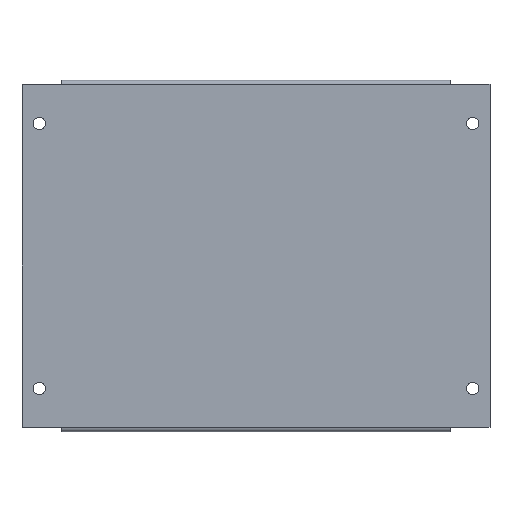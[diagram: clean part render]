
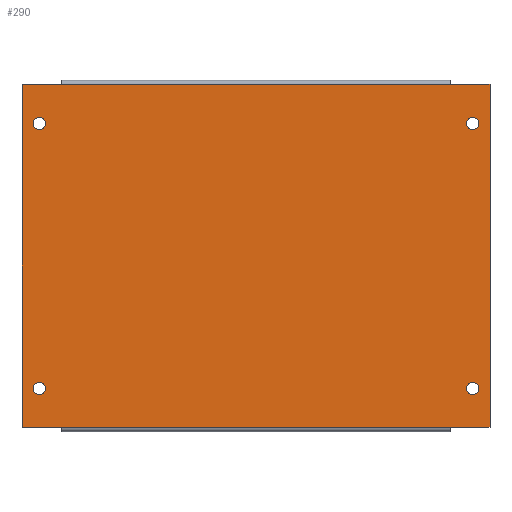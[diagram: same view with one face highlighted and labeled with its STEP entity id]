
A CAD part, top view. The second image highlights one B-rep face of the part: STEP entity #290.
In plain terms, the highlighted planar face has unit normal (0, 0, 1).
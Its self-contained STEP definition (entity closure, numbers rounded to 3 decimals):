
#1 = AXIS2_PLACEMENT_3D ( 'NONE', #961, #411, #650 ) ;
#17 = AXIS2_PLACEMENT_3D ( 'NONE', #419, #986, #747 ) ;
#24 = DIRECTION ( 'NONE',  ( 0., 1., 0. ) ) ;
#28 = FACE_BOUND ( 'NONE', #887, .T. ) ;
#40 = CIRCLE ( 'NONE', #810, 3.5 ) ;
#50 = AXIS2_PLACEMENT_3D ( 'NONE', #799, #86, #400 ) ;
#51 = VECTOR ( 'NONE', #24, 1000. ) ;
#78 = DIRECTION ( 'NONE',  ( -1., 0., 0. ) ) ;
#81 = EDGE_CURVE ( 'NONE', #584, #849, #515, .T. ) ;
#82 = VERTEX_POINT ( 'NONE', #695 ) ;
#84 = VERTEX_POINT ( 'NONE', #925 ) ;
#86 = DIRECTION ( 'NONE',  ( 0., 0., 1. ) ) ;
#104 = VECTOR ( 'NONE', #78, 1000. ) ;
#110 = ORIENTED_EDGE ( 'NONE', *, *, #977, .F. ) ;
#111 = CARTESIAN_POINT ( 'NONE',  ( -132.5, 97.1, 1.2 ) ) ;
#124 = ORIENTED_EDGE ( 'NONE', *, *, #403, .T. ) ;
#131 = CARTESIAN_POINT ( 'NONE',  ( -132.5, -97.1, 1.2 ) ) ;
#139 = CIRCLE ( 'NONE', #277, 3.5 ) ;
#142 = VERTEX_POINT ( 'NONE', #702 ) ;
#148 = LINE ( 'NONE', #488, #753 ) ;
#157 = EDGE_CURVE ( 'NONE', #82, #142, #139, .T. ) ;
#162 = VERTEX_POINT ( 'NONE', #478 ) ;
#169 = CARTESIAN_POINT ( 'NONE',  ( -132.5, 97.1, 1.2 ) ) ;
#173 = ORIENTED_EDGE ( 'NONE', *, *, #906, .T. ) ;
#177 = CARTESIAN_POINT ( 'NONE',  ( -126.25, 75., 1.2 ) ) ;
#185 = EDGE_LOOP ( 'NONE', ( #717, #251, #124, #721, #518, #705, #1004, #325 ) ) ;
#188 = CARTESIAN_POINT ( 'NONE',  ( -110.2, 97.1, 1.2 ) ) ;
#193 = CARTESIAN_POINT ( 'NONE',  ( -132.5, -99.5, 1.2 ) ) ;
#208 = EDGE_CURVE ( 'NONE', #631, #898, #1046, .T. ) ;
#216 = DIRECTION ( 'NONE',  ( 1., 0., 0. ) ) ;
#221 = DIRECTION ( 'NONE',  ( 0., 0., 1. ) ) ;
#236 = AXIS2_PLACEMENT_3D ( 'NONE', #193, #431, #746 ) ;
#243 = CIRCLE ( 'NONE', #551, 3.5 ) ;
#247 = FACE_BOUND ( 'NONE', #409, .T. ) ;
#251 = ORIENTED_EDGE ( 'NONE', *, *, #81, .T. ) ;
#255 = ORIENTED_EDGE ( 'NONE', *, *, #563, .F. ) ;
#274 = CARTESIAN_POINT ( 'NONE',  ( 119.25, 75., 1.2 ) ) ;
#277 = AXIS2_PLACEMENT_3D ( 'NONE', #473, #963, #1050 ) ;
#290 = ADVANCED_FACE ( 'NONE', ( #247, #28, #858, #644, #426 ), #998, .T. ) ;
#325 = ORIENTED_EDGE ( 'NONE', *, *, #208, .T. ) ;
#328 = VECTOR ( 'NONE', #512, 1000. ) ;
#356 = CARTESIAN_POINT ( 'NONE',  ( 122.75, 75., 1.2 ) ) ;
#380 = CARTESIAN_POINT ( 'NONE',  ( -132.5, -97.1, 1.2 ) ) ;
#400 = DIRECTION ( 'NONE',  ( 1., 0., 0. ) ) ;
#403 = EDGE_CURVE ( 'NONE', #849, #874, #527, .T. ) ;
#409 = EDGE_LOOP ( 'NONE', ( #110, #495 ) ) ;
#411 = DIRECTION ( 'NONE',  ( 0., 0., -1. ) ) ;
#419 = CARTESIAN_POINT ( 'NONE',  ( -122.75, 75., 1.2 ) ) ;
#422 = ORIENTED_EDGE ( 'NONE', *, *, #724, .T. ) ;
#423 = CARTESIAN_POINT ( 'NONE',  ( 126.25, -75., 1.2 ) ) ;
#426 = FACE_BOUND ( 'NONE', #994, .T. ) ;
#431 = DIRECTION ( 'NONE',  ( 0., 0., 1. ) ) ;
#432 = ORIENTED_EDGE ( 'NONE', *, *, #1031, .F. ) ;
#443 = ORIENTED_EDGE ( 'NONE', *, *, #857, .T. ) ;
#450 = DIRECTION ( 'NONE',  ( 1., 0., 0. ) ) ;
#451 = CIRCLE ( 'NONE', #50, 3.5 ) ;
#452 = CARTESIAN_POINT ( 'NONE',  ( 122.75, -75., 1.2 ) ) ;
#461 = VERTEX_POINT ( 'NONE', #863 ) ;
#473 = CARTESIAN_POINT ( 'NONE',  ( -122.75, -75., 1.2 ) ) ;
#475 = LINE ( 'NONE', #834, #328 ) ;
#478 = CARTESIAN_POINT ( 'NONE',  ( 110.2, 97.1, 1.2 ) ) ;
#488 = CARTESIAN_POINT ( 'NONE',  ( -132.5, 99.5, 1.2 ) ) ;
#495 = ORIENTED_EDGE ( 'NONE', *, *, #1044, .F. ) ;
#499 = CARTESIAN_POINT ( 'NONE',  ( -122.75, -75., 1.2 ) ) ;
#504 = VECTOR ( 'NONE', #978, 1000. ) ;
#507 = DIRECTION ( 'NONE',  ( 1., 0., 0. ) ) ;
#511 = AXIS2_PLACEMENT_3D ( 'NONE', #778, #221, #216 ) ;
#512 = DIRECTION ( 'NONE',  ( 1., 0., 0. ) ) ;
#515 = LINE ( 'NONE', #131, #918 ) ;
#518 = ORIENTED_EDGE ( 'NONE', *, *, #690, .T. ) ;
#523 = EDGE_CURVE ( 'NONE', #826, #162, #754, .T. ) ;
#527 = LINE ( 'NONE', #624, #781 ) ;
#540 = CIRCLE ( 'NONE', #17, 3.5 ) ;
#544 = EDGE_CURVE ( 'NONE', #162, #631, #626, .T. ) ;
#551 = AXIS2_PLACEMENT_3D ( 'NONE', #452, #600, #450 ) ;
#559 = AXIS2_PLACEMENT_3D ( 'NONE', #499, #738, #569 ) ;
#563 = EDGE_CURVE ( 'NONE', #730, #679, #540, .T. ) ;
#569 = DIRECTION ( 'NONE',  ( 1., 0., 0. ) ) ;
#584 = VERTEX_POINT ( 'NONE', #380 ) ;
#587 = CARTESIAN_POINT ( 'NONE',  ( 110.2, -97.1, 1.2 ) ) ;
#594 = CARTESIAN_POINT ( 'NONE',  ( -110.2, -97.1, 1.2 ) ) ;
#596 = VERTEX_POINT ( 'NONE', #274 ) ;
#600 = DIRECTION ( 'NONE',  ( 0., 0., 1. ) ) ;
#609 = ORIENTED_EDGE ( 'NONE', *, *, #157, .T. ) ;
#624 = CARTESIAN_POINT ( 'NONE',  ( -110.2, -97.1, 1.2 ) ) ;
#626 = LINE ( 'NONE', #641, #796 ) ;
#631 = VERTEX_POINT ( 'NONE', #188 ) ;
#641 = CARTESIAN_POINT ( 'NONE',  ( 110.2, 97.1, 1.2 ) ) ;
#644 = FACE_OUTER_BOUND ( 'NONE', #185, .T. ) ;
#650 = DIRECTION ( 'NONE',  ( 1., 0., 0. ) ) ;
#654 = CARTESIAN_POINT ( 'NONE',  ( 132.5, 97.1, 1.2 ) ) ;
#671 = CARTESIAN_POINT ( 'NONE',  ( -132.5, 97.1, 1.2 ) ) ;
#672 = EDGE_CURVE ( 'NONE', #898, #584, #148, .T. ) ;
#673 = CIRCLE ( 'NONE', #1, 3.5 ) ;
#679 = VERTEX_POINT ( 'NONE', #958 ) ;
#683 = VERTEX_POINT ( 'NONE', #423 ) ;
#690 = EDGE_CURVE ( 'NONE', #873, #826, #944, .T. ) ;
#695 = CARTESIAN_POINT ( 'NONE',  ( -126.25, -75., 1.2 ) ) ;
#702 = CARTESIAN_POINT ( 'NONE',  ( -119.25, -75., 1.2 ) ) ;
#705 = ORIENTED_EDGE ( 'NONE', *, *, #523, .T. ) ;
#717 = ORIENTED_EDGE ( 'NONE', *, *, #672, .T. ) ;
#721 = ORIENTED_EDGE ( 'NONE', *, *, #852, .T. ) ;
#724 = EDGE_CURVE ( 'NONE', #142, #82, #1000, .T. ) ;
#730 = VERTEX_POINT ( 'NONE', #177 ) ;
#738 = DIRECTION ( 'NONE',  ( 0., 0., -1. ) ) ;
#746 = DIRECTION ( 'NONE',  ( 1., 0., 0. ) ) ;
#747 = DIRECTION ( 'NONE',  ( 1., 0., 0. ) ) ;
#752 = CARTESIAN_POINT ( 'NONE',  ( 132.5, -97.1, 1.2 ) ) ;
#753 = VECTOR ( 'NONE', #829, 1000. ) ;
#754 = LINE ( 'NONE', #169, #104 ) ;
#778 = CARTESIAN_POINT ( 'NONE',  ( -122.75, 75., 1.2 ) ) ;
#781 = VECTOR ( 'NONE', #866, 1000. ) ;
#796 = VECTOR ( 'NONE', #883, 1000. ) ;
#799 = CARTESIAN_POINT ( 'NONE',  ( 122.75, -75., 1.2 ) ) ;
#810 = AXIS2_PLACEMENT_3D ( 'NONE', #356, #995, #507 ) ;
#819 = CARTESIAN_POINT ( 'NONE',  ( 132.5, 99.5, 1.2 ) ) ;
#826 = VERTEX_POINT ( 'NONE', #654 ) ;
#829 = DIRECTION ( 'NONE',  ( 0., -1., 0. ) ) ;
#834 = CARTESIAN_POINT ( 'NONE',  ( -132.5, -97.1, 1.2 ) ) ;
#849 = VERTEX_POINT ( 'NONE', #594 ) ;
#852 = EDGE_CURVE ( 'NONE', #874, #873, #475, .T. ) ;
#856 = DIRECTION ( 'NONE',  ( 1., 0., 0. ) ) ;
#857 = EDGE_CURVE ( 'NONE', #596, #84, #40, .T. ) ;
#858 = FACE_BOUND ( 'NONE', #888, .T. ) ;
#863 = CARTESIAN_POINT ( 'NONE',  ( 119.25, -75., 1.2 ) ) ;
#866 = DIRECTION ( 'NONE',  ( 1., 0., 0. ) ) ;
#873 = VERTEX_POINT ( 'NONE', #752 ) ;
#874 = VERTEX_POINT ( 'NONE', #587 ) ;
#883 = DIRECTION ( 'NONE',  ( -1., 0., 0. ) ) ;
#887 = EDGE_LOOP ( 'NONE', ( #173, #443 ) ) ;
#888 = EDGE_LOOP ( 'NONE', ( #432, #255 ) ) ;
#898 = VERTEX_POINT ( 'NONE', #671 ) ;
#906 = EDGE_CURVE ( 'NONE', #84, #596, #673, .T. ) ;
#918 = VECTOR ( 'NONE', #856, 1000. ) ;
#925 = CARTESIAN_POINT ( 'NONE',  ( 126.25, 75., 1.2 ) ) ;
#944 = LINE ( 'NONE', #819, #51 ) ;
#958 = CARTESIAN_POINT ( 'NONE',  ( -119.25, 75., 1.2 ) ) ;
#961 = CARTESIAN_POINT ( 'NONE',  ( 122.75, 75., 1.2 ) ) ;
#963 = DIRECTION ( 'NONE',  ( 0., 0., -1. ) ) ;
#977 = EDGE_CURVE ( 'NONE', #683, #461, #451, .T. ) ;
#978 = DIRECTION ( 'NONE',  ( -1., 0., 0. ) ) ;
#986 = DIRECTION ( 'NONE',  ( 0., 0., 1. ) ) ;
#994 = EDGE_LOOP ( 'NONE', ( #422, #609 ) ) ;
#995 = DIRECTION ( 'NONE',  ( 0., 0., -1. ) ) ;
#998 = PLANE ( 'NONE',  #236 ) ;
#1000 = CIRCLE ( 'NONE', #559, 3.5 ) ;
#1004 = ORIENTED_EDGE ( 'NONE', *, *, #544, .T. ) ;
#1011 = CIRCLE ( 'NONE', #511, 3.5 ) ;
#1031 = EDGE_CURVE ( 'NONE', #679, #730, #1011, .T. ) ;
#1044 = EDGE_CURVE ( 'NONE', #461, #683, #243, .T. ) ;
#1046 = LINE ( 'NONE', #111, #504 ) ;
#1050 = DIRECTION ( 'NONE',  ( 1., 0., 0. ) ) ;
